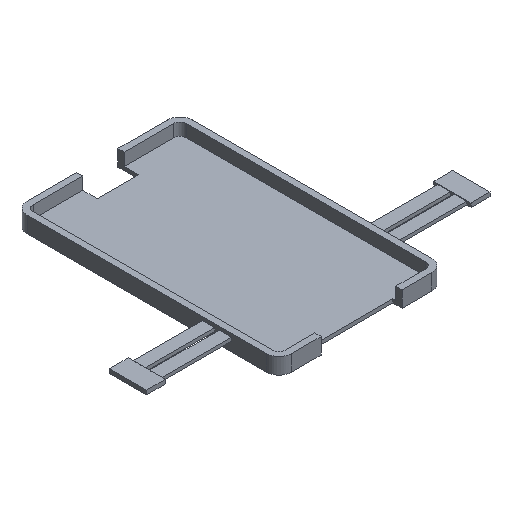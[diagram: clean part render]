
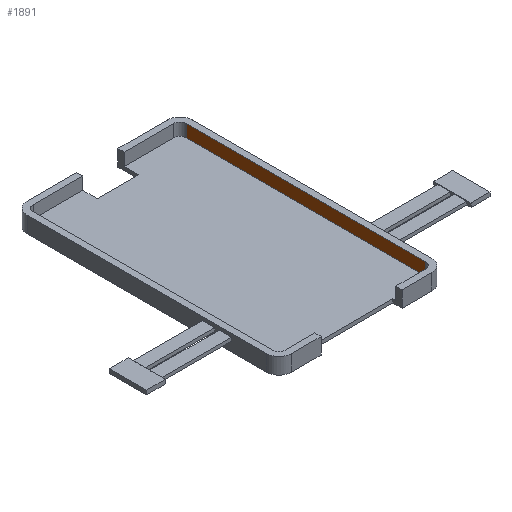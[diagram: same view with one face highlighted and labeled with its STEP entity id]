
A CAD part, isometric view. The second image highlights one B-rep face of the part: STEP entity #1891.
In plain terms, the highlighted planar face has unit normal (-1, 0, 0).
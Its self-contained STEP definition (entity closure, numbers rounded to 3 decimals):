
#1054 = PLANE('',#1055);
#1055 = AXIS2_PLACEMENT_3D('',#1056,#1057,#1058);
#1056 = CARTESIAN_POINT('',(-20.,-43.,2.02));
#1057 = DIRECTION('',(0.,0.,1.));
#1058 = DIRECTION('',(1.,0.,-0.));
#1329 = VERTEX_POINT('',#1330);
#1330 = CARTESIAN_POINT('',(18.5,18.,2.02));
#1345 = CYLINDRICAL_SURFACE('',#1346,1.5);
#1346 = AXIS2_PLACEMENT_3D('',#1347,#1348,#1349);
#1347 = CARTESIAN_POINT('',(17.,18.,-1.18));
#1348 = DIRECTION('',(0.,0.,1.));
#1349 = DIRECTION('',(1.,0.,-0.));
#1357 = EDGE_CURVE('',#1358,#1329,#1360,.T.);
#1358 = VERTEX_POINT('',#1359);
#1359 = CARTESIAN_POINT('',(18.5,-40.,2.02));
#1360 = SURFACE_CURVE('',#1361,(#1365,#1372),.PCURVE_S1.);
#1361 = LINE('',#1362,#1363);
#1362 = CARTESIAN_POINT('',(18.5,-42.25,2.02));
#1363 = VECTOR('',#1364,1.);
#1364 = DIRECTION('',(0.,1.,0.));
#1365 = PCURVE('',#1054,#1366);
#1366 = DEFINITIONAL_REPRESENTATION('',(#1367),#1371);
#1367 = LINE('',#1368,#1369);
#1368 = CARTESIAN_POINT('',(38.5,0.75));
#1369 = VECTOR('',#1370,1.);
#1370 = DIRECTION('',(0.,1.));
#1371 = ( GEOMETRIC_REPRESENTATION_CONTEXT(2) 
PARAMETRIC_REPRESENTATION_CONTEXT() REPRESENTATION_CONTEXT('2D SPACE',''
  ) );
#1372 = PCURVE('',#1373,#1378);
#1373 = PLANE('',#1374);
#1374 = AXIS2_PLACEMENT_3D('',#1375,#1376,#1377);
#1375 = CARTESIAN_POINT('',(18.5,-41.5,-1.18));
#1376 = DIRECTION('',(1.,0.,0.));
#1377 = DIRECTION('',(0.,0.,1.));
#1378 = DEFINITIONAL_REPRESENTATION('',(#1379),#1383);
#1379 = LINE('',#1380,#1381);
#1380 = CARTESIAN_POINT('',(3.2,0.75));
#1381 = VECTOR('',#1382,1.);
#1382 = DIRECTION('',(0.,-1.));
#1383 = ( GEOMETRIC_REPRESENTATION_CONTEXT(2) 
PARAMETRIC_REPRESENTATION_CONTEXT() REPRESENTATION_CONTEXT('2D SPACE',''
  ) );
#1402 = CYLINDRICAL_SURFACE('',#1403,1.5);
#1403 = AXIS2_PLACEMENT_3D('',#1404,#1405,#1406);
#1404 = CARTESIAN_POINT('',(17.,-40.,-1.18));
#1405 = DIRECTION('',(0.,0.,1.));
#1406 = DIRECTION('',(1.,0.,-0.));
#1610 = PLANE('',#1611);
#1611 = AXIS2_PLACEMENT_3D('',#1612,#1613,#1614);
#1612 = CARTESIAN_POINT('',(-20.,-43.,-0.98));
#1613 = DIRECTION('',(0.,0.,1.));
#1614 = DIRECTION('',(1.,0.,-0.));
#1845 = EDGE_CURVE('',#1846,#1329,#1848,.T.);
#1846 = VERTEX_POINT('',#1847);
#1847 = CARTESIAN_POINT('',(18.5,18.,-0.98));
#1848 = SURFACE_CURVE('',#1849,(#1853,#1860),.PCURVE_S1.);
#1849 = LINE('',#1850,#1851);
#1850 = CARTESIAN_POINT('',(18.5,18.,-1.18));
#1851 = VECTOR('',#1852,1.);
#1852 = DIRECTION('',(0.,0.,1.));
#1853 = PCURVE('',#1345,#1854);
#1854 = DEFINITIONAL_REPRESENTATION('',(#1855),#1859);
#1855 = LINE('',#1856,#1857);
#1856 = CARTESIAN_POINT('',(0.,0.));
#1857 = VECTOR('',#1858,1.);
#1858 = DIRECTION('',(0.,1.));
#1859 = ( GEOMETRIC_REPRESENTATION_CONTEXT(2) 
PARAMETRIC_REPRESENTATION_CONTEXT() REPRESENTATION_CONTEXT('2D SPACE',''
  ) );
#1860 = PCURVE('',#1373,#1861);
#1861 = DEFINITIONAL_REPRESENTATION('',(#1862),#1866);
#1862 = LINE('',#1863,#1864);
#1863 = CARTESIAN_POINT('',(0.,-59.5));
#1864 = VECTOR('',#1865,1.);
#1865 = DIRECTION('',(1.,0.));
#1866 = ( GEOMETRIC_REPRESENTATION_CONTEXT(2) 
PARAMETRIC_REPRESENTATION_CONTEXT() REPRESENTATION_CONTEXT('2D SPACE',''
  ) );
#1891 = ADVANCED_FACE('',(#1892),#1373,.F.);
#1892 = FACE_BOUND('',#1893,.F.);
#1893 = EDGE_LOOP('',(#1894,#1895,#1918,#1939));
#1894 = ORIENTED_EDGE('',*,*,#1357,.F.);
#1895 = ORIENTED_EDGE('',*,*,#1896,.F.);
#1896 = EDGE_CURVE('',#1897,#1358,#1899,.T.);
#1897 = VERTEX_POINT('',#1898);
#1898 = CARTESIAN_POINT('',(18.5,-40.,-0.98));
#1899 = SURFACE_CURVE('',#1900,(#1904,#1911),.PCURVE_S1.);
#1900 = LINE('',#1901,#1902);
#1901 = CARTESIAN_POINT('',(18.5,-40.,-1.18));
#1902 = VECTOR('',#1903,1.);
#1903 = DIRECTION('',(0.,0.,1.));
#1904 = PCURVE('',#1373,#1905);
#1905 = DEFINITIONAL_REPRESENTATION('',(#1906),#1910);
#1906 = LINE('',#1907,#1908);
#1907 = CARTESIAN_POINT('',(0.,-1.5));
#1908 = VECTOR('',#1909,1.);
#1909 = DIRECTION('',(1.,0.));
#1910 = ( GEOMETRIC_REPRESENTATION_CONTEXT(2) 
PARAMETRIC_REPRESENTATION_CONTEXT() REPRESENTATION_CONTEXT('2D SPACE',''
  ) );
#1911 = PCURVE('',#1402,#1912);
#1912 = DEFINITIONAL_REPRESENTATION('',(#1913),#1917);
#1913 = LINE('',#1914,#1915);
#1914 = CARTESIAN_POINT('',(6.283,0.));
#1915 = VECTOR('',#1916,1.);
#1916 = DIRECTION('',(-0.,1.));
#1917 = ( GEOMETRIC_REPRESENTATION_CONTEXT(2) 
PARAMETRIC_REPRESENTATION_CONTEXT() REPRESENTATION_CONTEXT('2D SPACE',''
  ) );
#1918 = ORIENTED_EDGE('',*,*,#1919,.T.);
#1919 = EDGE_CURVE('',#1897,#1846,#1920,.T.);
#1920 = SURFACE_CURVE('',#1921,(#1925,#1932),.PCURVE_S1.);
#1921 = LINE('',#1922,#1923);
#1922 = CARTESIAN_POINT('',(18.5,-42.25,-0.98));
#1923 = VECTOR('',#1924,1.);
#1924 = DIRECTION('',(0.,1.,0.));
#1925 = PCURVE('',#1373,#1926);
#1926 = DEFINITIONAL_REPRESENTATION('',(#1927),#1931);
#1927 = LINE('',#1928,#1929);
#1928 = CARTESIAN_POINT('',(0.2,0.75));
#1929 = VECTOR('',#1930,1.);
#1930 = DIRECTION('',(0.,-1.));
#1931 = ( GEOMETRIC_REPRESENTATION_CONTEXT(2) 
PARAMETRIC_REPRESENTATION_CONTEXT() REPRESENTATION_CONTEXT('2D SPACE',''
  ) );
#1932 = PCURVE('',#1610,#1933);
#1933 = DEFINITIONAL_REPRESENTATION('',(#1934),#1938);
#1934 = LINE('',#1935,#1936);
#1935 = CARTESIAN_POINT('',(38.5,0.75));
#1936 = VECTOR('',#1937,1.);
#1937 = DIRECTION('',(0.,1.));
#1938 = ( GEOMETRIC_REPRESENTATION_CONTEXT(2) 
PARAMETRIC_REPRESENTATION_CONTEXT() REPRESENTATION_CONTEXT('2D SPACE',''
  ) );
#1939 = ORIENTED_EDGE('',*,*,#1845,.T.);
